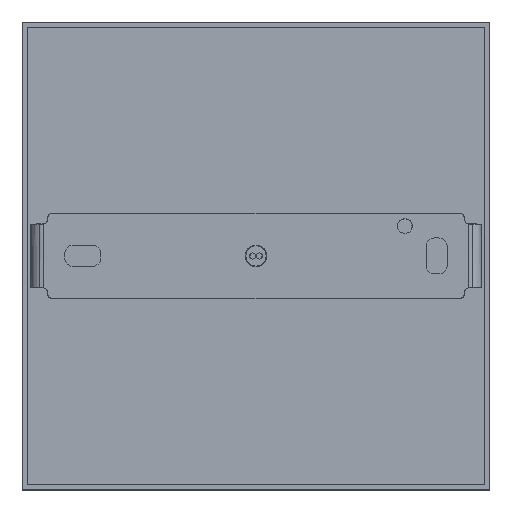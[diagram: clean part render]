
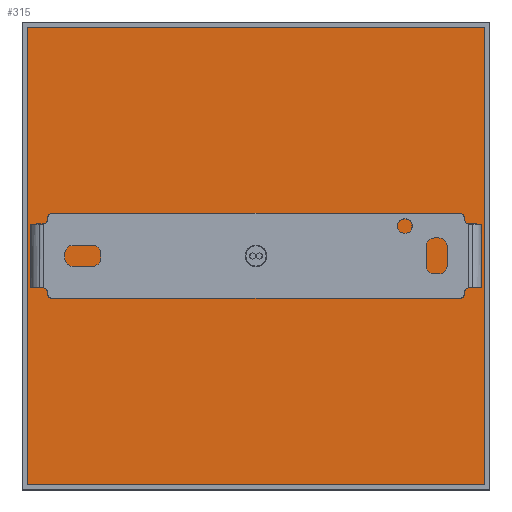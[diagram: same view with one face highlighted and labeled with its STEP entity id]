
A CAD part, top view. The second image highlights one B-rep face of the part: STEP entity #315.
In plain terms, the highlighted planar face has unit normal (0, 0, 1).
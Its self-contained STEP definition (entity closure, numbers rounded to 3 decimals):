
#285=FACE_BOUND('',#593,.T.);
#315=ADVANCED_FACE('',(#453,#285),#2989,.T.);
#453=FACE_OUTER_BOUND('',#592,.T.);
#592=EDGE_LOOP('',(#774,#775,#776,#777));
#593=EDGE_LOOP('',(#778,#779));
#774=ORIENTED_EDGE('',*,*,#1407,.T.);
#775=ORIENTED_EDGE('',*,*,#1404,.T.);
#776=ORIENTED_EDGE('',*,*,#1401,.T.);
#777=ORIENTED_EDGE('',*,*,#1409,.T.);
#778=ORIENTED_EDGE('',*,*,#1426,.F.);
#779=ORIENTED_EDGE('',*,*,#1422,.F.);
#1401=EDGE_CURVE('',#2435,#2436,#2157,.T.);
#1404=EDGE_CURVE('',#2439,#2435,#2160,.T.);
#1407=EDGE_CURVE('',#2441,#2439,#2163,.T.);
#1409=EDGE_CURVE('',#2436,#2441,#2165,.T.);
#1422=EDGE_CURVE('',#2450,#2452,#1916,.T.);
#1426=EDGE_CURVE('',#2452,#2450,#1920,.T.);
#1916=(
BOUNDED_CURVE()
B_SPLINE_CURVE(2,(#3451,#3452,#3453,#3454,#3455),.UNSPECIFIED.,.F.,.F.)
B_SPLINE_CURVE_WITH_KNOTS((3,2,3),(-15.708,-7.854,0.),
 .UNSPECIFIED.)
CURVE()
GEOMETRIC_REPRESENTATION_ITEM()
RATIONAL_B_SPLINE_CURVE((1.,0.707,1.,0.707,1.))
REPRESENTATION_ITEM('')
);
#1920=(
BOUNDED_CURVE()
B_SPLINE_CURVE(2,(#3465,#3466,#3467,#3468,#3469),.UNSPECIFIED.,.F.,.F.)
B_SPLINE_CURVE_WITH_KNOTS((3,2,3),(0.,7.854,15.708),
 .UNSPECIFIED.)
CURVE()
GEOMETRIC_REPRESENTATION_ITEM()
RATIONAL_B_SPLINE_CURVE((1.,0.707,1.,0.707,1.))
REPRESENTATION_ITEM('')
);
#2157=B_SPLINE_CURVE_WITH_KNOTS('',1,(#3409,#3410),.UNSPECIFIED.,.F.,.F.,
(2,2),(-108.8,-1.2),.UNSPECIFIED.);
#2160=B_SPLINE_CURVE_WITH_KNOTS('',1,(#3415,#3416),.UNSPECIFIED.,.F.,.F.,
(2,2),(-108.8,-1.2),.UNSPECIFIED.);
#2163=B_SPLINE_CURVE_WITH_KNOTS('',1,(#3421,#3422),.UNSPECIFIED.,.F.,.F.,
(2,2),(-108.8,-1.2),.UNSPECIFIED.);
#2165=B_SPLINE_CURVE_WITH_KNOTS('',1,(#3425,#3426),.UNSPECIFIED.,.F.,.F.,
(2,2),(1.2,108.8),.UNSPECIFIED.);
#2435=VERTEX_POINT('',#3384);
#2436=VERTEX_POINT('',#3385);
#2439=VERTEX_POINT('',#3388);
#2441=VERTEX_POINT('',#3390);
#2450=VERTEX_POINT('',#3399);
#2452=VERTEX_POINT('',#3401);
#2989=PLANE('',#3187);
#3187=AXIS2_PLACEMENT_3D('',#3357,#3264,$);
#3264=DIRECTION('',(0.,0.,1.));
#3357=CARTESIAN_POINT('',(-55.,-55.,-29.));
#3384=CARTESIAN_POINT('',(-53.8,53.8,-29.));
#3385=CARTESIAN_POINT('',(-53.8,-53.8,-29.));
#3388=CARTESIAN_POINT('',(53.8,53.8,-29.));
#3390=CARTESIAN_POINT('',(53.8,-53.8,-29.));
#3399=CARTESIAN_POINT('',(0.,5.,-29.));
#3401=CARTESIAN_POINT('',(0.,-5.,-29.));
#3409=CARTESIAN_POINT('',(-53.8,53.8,-29.));
#3410=CARTESIAN_POINT('',(-53.8,-53.8,-29.));
#3415=CARTESIAN_POINT('',(53.8,53.8,-29.));
#3416=CARTESIAN_POINT('',(-53.8,53.8,-29.));
#3421=CARTESIAN_POINT('',(53.8,-53.8,-29.));
#3422=CARTESIAN_POINT('',(53.8,53.8,-29.));
#3425=CARTESIAN_POINT('',(-53.8,-53.8,-29.));
#3426=CARTESIAN_POINT('',(53.8,-53.8,-29.));
#3451=CARTESIAN_POINT('',(0.,5.,-29.));
#3452=CARTESIAN_POINT('',(-5.,5.,-29.));
#3453=CARTESIAN_POINT('',(-5.,0.,-29.));
#3454=CARTESIAN_POINT('',(-5.,-5.,-29.));
#3455=CARTESIAN_POINT('',(0.,-5.,-29.));
#3465=CARTESIAN_POINT('',(0.,-5.,-29.));
#3466=CARTESIAN_POINT('',(5.,-5.,-29.));
#3467=CARTESIAN_POINT('',(5.,0.,-29.));
#3468=CARTESIAN_POINT('',(5.,5.,-29.));
#3469=CARTESIAN_POINT('',(0.,5.,-29.));
